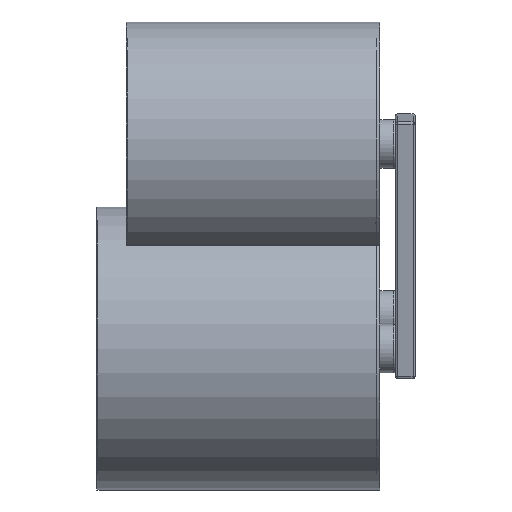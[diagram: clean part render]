
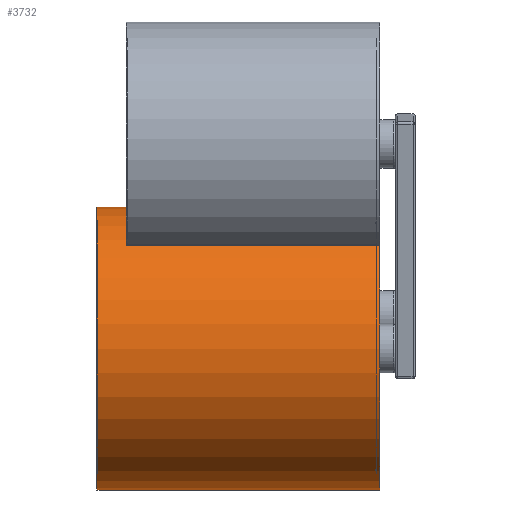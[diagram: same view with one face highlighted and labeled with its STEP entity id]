
A CAD part, left-side view. The second image highlights one B-rep face of the part: STEP entity #3732.
In plain terms, the highlighted cylindrical face has radius 145 mm (diameter 290 mm), a full revolution.
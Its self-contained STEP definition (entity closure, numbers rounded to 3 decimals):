
#455=LINE('',#13164,#659);
#659=VECTOR('',#5004,145.);
#817=CYLINDRICAL_SURFACE('',#4149,145.);
#1026=FACE_OUTER_BOUND('',#1315,.T.);
#1315=EDGE_LOOP('',(#3082,#3083,#3084,#3085));
#1567=CIRCLE('',#4150,145.);
#1568=CIRCLE('',#4151,145.);
#1861=VERTEX_POINT('',#13161);
#1862=VERTEX_POINT('',#13163);
#2285=EDGE_CURVE('',#1861,#1861,#1567,.T.);
#2286=EDGE_CURVE('',#1861,#1862,#455,.T.);
#2287=EDGE_CURVE('',#1862,#1862,#1568,.T.);
#3082=ORIENTED_EDGE('',*,*,#2285,.F.);
#3083=ORIENTED_EDGE('',*,*,#2286,.T.);
#3084=ORIENTED_EDGE('',*,*,#2287,.T.);
#3085=ORIENTED_EDGE('',*,*,#2286,.F.);
#3732=ADVANCED_FACE('',(#1026),#817,.T.);
#4149=AXIS2_PLACEMENT_3D('',#13160,#5000,#5001);
#4150=AXIS2_PLACEMENT_3D('',#13162,#5002,#5003);
#4151=AXIS2_PLACEMENT_3D('',#13165,#5005,#5006);
#5000=DIRECTION('center_axis',(0.,1.,0.));
#5001=DIRECTION('ref_axis',(1.,0.,0.));
#5002=DIRECTION('center_axis',(0.,1.,0.));
#5003=DIRECTION('ref_axis',(1.,0.,0.));
#5004=DIRECTION('',(0.,-1.,0.));
#5005=DIRECTION('center_axis',(0.,1.,0.));
#5006=DIRECTION('ref_axis',(1.,0.,0.));
#13160=CARTESIAN_POINT('Origin',(0.,0.,0.));
#13161=CARTESIAN_POINT('',(-145.,290.,0.));
#13162=CARTESIAN_POINT('Origin',(0.,290.,0.));
#13163=CARTESIAN_POINT('',(-145.,0.,0.));
#13164=CARTESIAN_POINT('',(-145.,0.,0.));
#13165=CARTESIAN_POINT('Origin',(0.,0.,0.));
